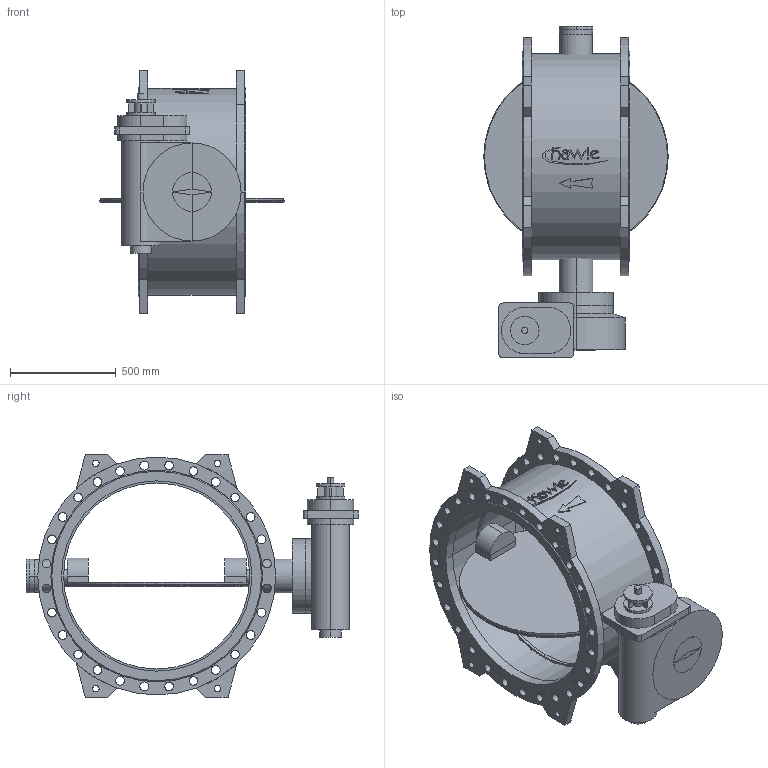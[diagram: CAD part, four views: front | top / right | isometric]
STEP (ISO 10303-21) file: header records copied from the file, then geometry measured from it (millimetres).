
FILE_DESCRIPTION(('STEP AP214'),'1');
FILE_NAME('S:/EK/USER/CAT6/3DHomepage_27-04-2012/neu_08-01-2013/9881K/9881K_PN16_DN900.STP','2013-03-11T15:50:25',(' '),(' '),'Spatial InterOp 3D',' ',' ');
FILE_SCHEMA(('automotive_design'));
Length unit declared in the file: millimetre
Products named in the file (52): 3D-Objekt
Bounding box: 872 x 1570 x 1146 mm (x, y, z)
Volume: 178207059.7 mm3; surface area: 10190841.4 mm2
Topology: 52 solids, 52 shells, 465 faces, 1074 edges, 716 vertices
Faces by surface type: cylinder 243, plane 214, cone 8
Entity records: 18588 total; most frequent: DIRECTION 2610, CARTESIAN_POINT 2307, ORIENTED_EDGE 2148, EDGE_CURVE 1074, AXIS2_PLACEMENT_3D 1019, VERTEX_POINT 716, EDGE_LOOP 608, LINE 572
